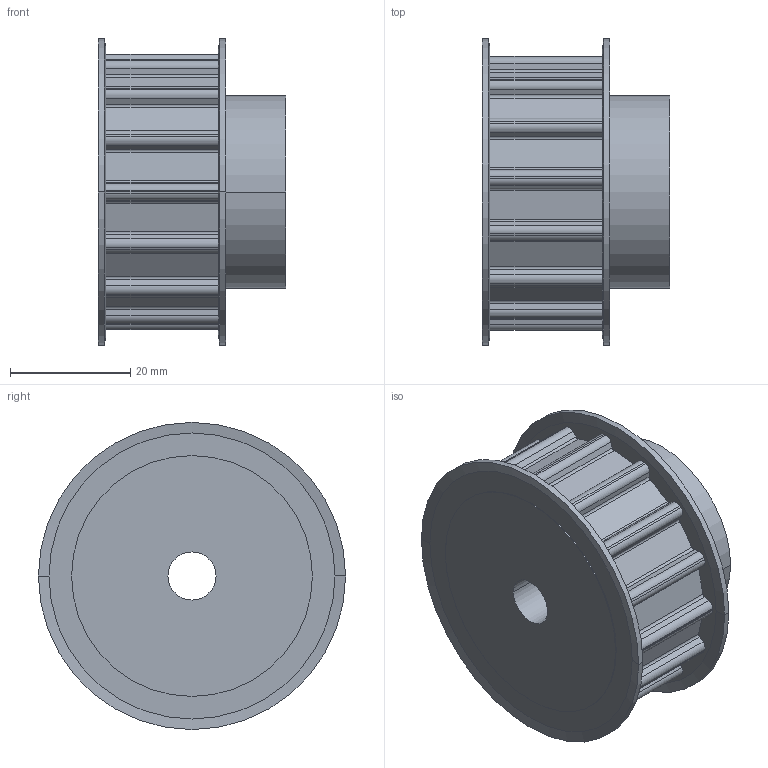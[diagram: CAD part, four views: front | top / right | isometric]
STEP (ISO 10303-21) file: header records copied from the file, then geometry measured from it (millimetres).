
FILE_DESCRIPTION( ( '' ), '1' );
FILE_NAME( 'C:/Users/Stangenbergd/Documents/CAD_Step/1/16821500.stp', '2021-10-19T09:43:33', ( '' ), ( '' ), ' ', ' ', ' ' );
FILE_SCHEMA( ( 'CONFIG_CONTROL_DESIGN' ) );
Length unit declared in the file: millimetre
Products named in the file (1): 1
Bounding box: 31.1 x 51 x 51 mm (x, y, z)
Volume: 37775.1 mm3; surface area: 10585.7 mm2
Topology: 1 solids, 1 shells, 148 faces, 415 edges, 274 vertices
Faces by surface type: cylinder 88, plane 52, cone 8
Entity records: 4887 total; most frequent: DIRECTION 897, CARTESIAN_POINT 838, ORIENTED_EDGE 830, EDGE_CURVE 415, AXIS2_PLACEMENT_3D 333, VERTEX_POINT 274, LINE 231, VECTOR 231
